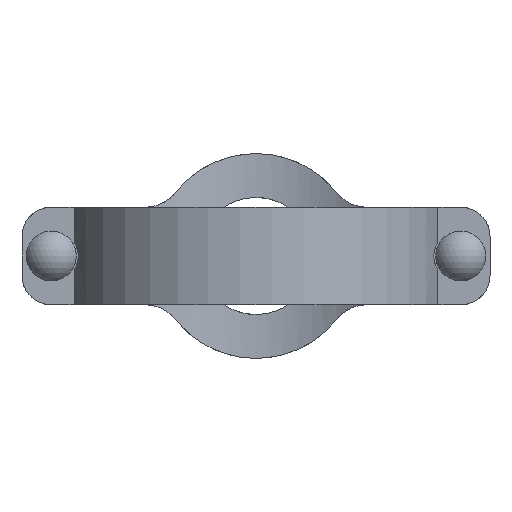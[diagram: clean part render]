
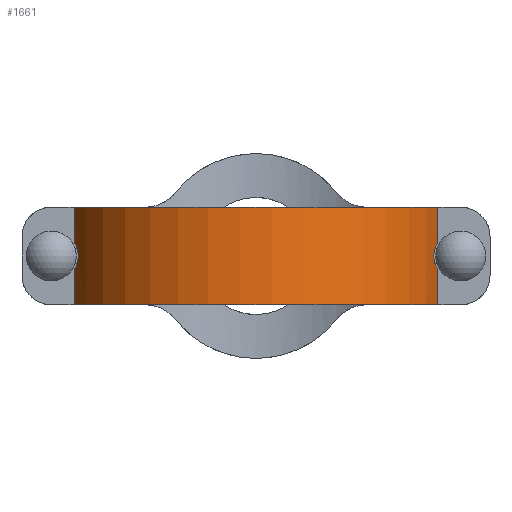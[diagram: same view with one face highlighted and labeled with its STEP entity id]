
A CAD part, front view. The second image highlights one B-rep face of the part: STEP entity #1661.
In plain terms, the highlighted cylindrical face has radius 123.952 mm (diameter 247.904 mm), a partial arc.
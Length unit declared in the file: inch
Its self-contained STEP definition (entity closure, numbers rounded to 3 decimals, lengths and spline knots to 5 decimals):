
#62=B_SPLINE_CURVE_WITH_KNOTS('',3,(#2458,#2459,#2460,#2461,#2462,#2463,
#2464,#2465,#2466,#2467,#2468,#2469,#2470,#2471,#2472,#2473,#2474,#2475),
 .UNSPECIFIED.,.F.,.F.,(4,2,2,2,2,2,2,2,4),(1.03011,1.24288,
1.65717,1.96166,2.26615,2.57064,2.87513,
3.28942,3.50219),.UNSPECIFIED.);
#74=B_SPLINE_CURVE_WITH_KNOTS('',3,(#2979,#2980,#2981,#2982,#2983,#2984,
#2985,#2986,#2987,#2988,#2989,#2990,#2991,#2992,#2993,#2994,#2995,#2996),
 .UNSPECIFIED.,.F.,.F.,(4,2,2,2,2,2,2,2,4),(1.03011,1.24288,
1.65717,1.96166,2.26615,2.57064,2.87513,
3.28942,3.50219),.UNSPECIFIED.);
#104=CYLINDRICAL_SURFACE('',#1823,4.88);
#189=FACE_OUTER_BOUND('',#279,.T.);
#279=EDGE_LOOP('',(#1310,#1311,#1312,#1313,#1314,#1315,#1316,#1317));
#339=LINE('',#2501,#466);
#343=LINE('',#2512,#470);
#387=LINE('',#3000,#514);
#391=LINE('',#3011,#518);
#466=VECTOR('',#1983,0.3937);
#470=VECTOR('',#1991,0.3937);
#514=VECTOR('',#2147,0.3937);
#518=VECTOR('',#2155,0.3937);
#615=CIRCLE('',#1822,4.88);
#616=CIRCLE('',#1824,4.88);
#665=VERTEX_POINT('',#2456);
#666=VERTEX_POINT('',#2457);
#669=VERTEX_POINT('',#2500);
#674=VERTEX_POINT('',#2510);
#736=VERTEX_POINT('',#2977);
#737=VERTEX_POINT('',#2978);
#738=VERTEX_POINT('',#2999);
#743=VERTEX_POINT('',#3009);
#831=EDGE_CURVE('',#665,#666,#62,.T.);
#835=EDGE_CURVE('',#665,#669,#339,.T.);
#841=EDGE_CURVE('',#674,#666,#343,.T.);
#925=EDGE_CURVE('',#736,#737,#74,.T.);
#927=EDGE_CURVE('',#736,#738,#387,.T.);
#933=EDGE_CURVE('',#743,#737,#391,.T.);
#963=EDGE_CURVE('',#669,#743,#615,.T.);
#967=EDGE_CURVE('',#738,#674,#616,.T.);
#1310=ORIENTED_EDGE('',*,*,#831,.T.);
#1311=ORIENTED_EDGE('',*,*,#841,.F.);
#1312=ORIENTED_EDGE('',*,*,#967,.F.);
#1313=ORIENTED_EDGE('',*,*,#927,.F.);
#1314=ORIENTED_EDGE('',*,*,#925,.T.);
#1315=ORIENTED_EDGE('',*,*,#933,.F.);
#1316=ORIENTED_EDGE('',*,*,#963,.F.);
#1317=ORIENTED_EDGE('',*,*,#835,.F.);
#1661=ADVANCED_FACE('',(#189),#104,.T.);
#1822=AXIS2_PLACEMENT_3D('',#3066,#2215,#2216);
#1823=AXIS2_PLACEMENT_3D('',#3071,#2220,#2221);
#1824=AXIS2_PLACEMENT_3D('',#3072,#2222,#2223);
#1983=DIRECTION('',(0.,0.,1.));
#1991=DIRECTION('',(0.,0.,1.));
#2147=DIRECTION('',(0.,0.,-1.));
#2155=DIRECTION('',(0.,0.,-1.));
#2215=DIRECTION('center_axis',(0.,0.,1.));
#2216=DIRECTION('ref_axis',(-0.955,-0.295,0.));
#2220=DIRECTION('center_axis',(0.,0.,1.));
#2221=DIRECTION('ref_axis',(-0.955,-0.295,0.));
#2222=DIRECTION('center_axis',(0.,0.,-1.));
#2223=DIRECTION('ref_axis',(-0.955,-0.295,0.));
#2456=CARTESIAN_POINT('',(-4.66208,-1.442,0.36119));
#2457=CARTESIAN_POINT('',(-4.66208,-1.442,-0.36119));
#2458=CARTESIAN_POINT('Ctrl Pts',(-4.66208,-1.442,0.36119));
#2459=CARTESIAN_POINT('Ctrl Pts',(-4.65421,-1.46747,0.34836));
#2460=CARTESIAN_POINT('Ctrl Pts',(-4.64633,-1.49218,0.33461));
#2461=CARTESIAN_POINT('Ctrl Pts',(-4.62351,-1.56203,0.29097));
#2462=CARTESIAN_POINT('Ctrl Pts',(-4.60888,-1.60441,0.25828));
#2463=CARTESIAN_POINT('Ctrl Pts',(-4.58646,-1.66722,0.19157));
#2464=CARTESIAN_POINT('Ctrl Pts',(-4.57705,-1.69274,0.15721));
#2465=CARTESIAN_POINT('Ctrl Pts',(-4.56375,-1.72828,0.08148));
#2466=CARTESIAN_POINT('Ctrl Pts',(-4.56,-1.73804,0.03996));
#2467=CARTESIAN_POINT('Ctrl Pts',(-4.56,-1.73804,-0.03996));
#2468=CARTESIAN_POINT('Ctrl Pts',(-4.56375,-1.72828,-0.08148));
#2469=CARTESIAN_POINT('Ctrl Pts',(-4.57705,-1.69274,-0.15721));
#2470=CARTESIAN_POINT('Ctrl Pts',(-4.58646,-1.66722,-0.19157));
#2471=CARTESIAN_POINT('Ctrl Pts',(-4.60888,-1.60441,-0.25828));
#2472=CARTESIAN_POINT('Ctrl Pts',(-4.62351,-1.56203,-0.29097));
#2473=CARTESIAN_POINT('Ctrl Pts',(-4.64633,-1.49218,-0.33461));
#2474=CARTESIAN_POINT('Ctrl Pts',(-4.65421,-1.46747,-0.34836));
#2475=CARTESIAN_POINT('Ctrl Pts',(-4.66208,-1.442,-0.36119));
#2500=CARTESIAN_POINT('',(-4.66208,-1.442,1.25));
#2501=CARTESIAN_POINT('',(-4.66208,-1.442,0.));
#2510=CARTESIAN_POINT('',(-4.66208,-1.442,-1.25));
#2512=CARTESIAN_POINT('',(-4.66208,-1.442,0.));
#2977=CARTESIAN_POINT('',(4.66208,-1.442,-0.36119));
#2978=CARTESIAN_POINT('',(4.66208,-1.442,0.36119));
#2979=CARTESIAN_POINT('Ctrl Pts',(4.66208,-1.442,-0.36119));
#2980=CARTESIAN_POINT('Ctrl Pts',(4.65421,-1.46747,-0.34836));
#2981=CARTESIAN_POINT('Ctrl Pts',(4.64633,-1.49218,-0.33461));
#2982=CARTESIAN_POINT('Ctrl Pts',(4.62351,-1.56203,-0.29097));
#2983=CARTESIAN_POINT('Ctrl Pts',(4.60888,-1.60441,-0.25828));
#2984=CARTESIAN_POINT('Ctrl Pts',(4.58646,-1.66722,-0.19157));
#2985=CARTESIAN_POINT('Ctrl Pts',(4.57705,-1.69274,-0.15721));
#2986=CARTESIAN_POINT('Ctrl Pts',(4.56375,-1.72828,-0.08148));
#2987=CARTESIAN_POINT('Ctrl Pts',(4.56,-1.73804,-0.03996));
#2988=CARTESIAN_POINT('Ctrl Pts',(4.56,-1.73804,0.03996));
#2989=CARTESIAN_POINT('Ctrl Pts',(4.56375,-1.72828,0.08148));
#2990=CARTESIAN_POINT('Ctrl Pts',(4.57705,-1.69274,0.15721));
#2991=CARTESIAN_POINT('Ctrl Pts',(4.58646,-1.66722,0.19157));
#2992=CARTESIAN_POINT('Ctrl Pts',(4.60888,-1.60441,0.25828));
#2993=CARTESIAN_POINT('Ctrl Pts',(4.62351,-1.56203,0.29097));
#2994=CARTESIAN_POINT('Ctrl Pts',(4.64633,-1.49218,0.33461));
#2995=CARTESIAN_POINT('Ctrl Pts',(4.65421,-1.46747,0.34836));
#2996=CARTESIAN_POINT('Ctrl Pts',(4.66208,-1.442,0.36119));
#2999=CARTESIAN_POINT('',(4.66208,-1.442,-1.25));
#3000=CARTESIAN_POINT('',(4.66208,-1.442,0.));
#3009=CARTESIAN_POINT('',(4.66208,-1.442,1.25));
#3011=CARTESIAN_POINT('',(4.66208,-1.442,0.));
#3066=CARTESIAN_POINT('Origin',(0.,0.,1.25));
#3071=CARTESIAN_POINT('Origin',(0.,0.,0.));
#3072=CARTESIAN_POINT('Origin',(0.,0.,-1.25));
